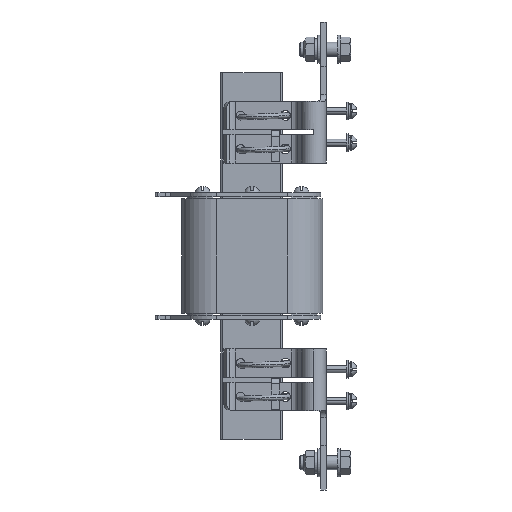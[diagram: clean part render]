
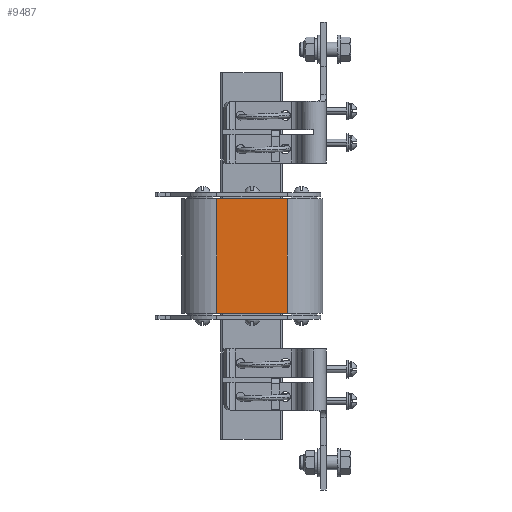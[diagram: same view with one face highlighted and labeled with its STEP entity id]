
A CAD part, left-side view. The second image highlights one B-rep face of the part: STEP entity #9487.
In plain terms, the highlighted planar face has unit normal (-1, 0, 0).
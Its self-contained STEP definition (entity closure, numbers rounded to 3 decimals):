
#9453 = EDGE_CURVE ( 'NONE', #9454, #9484, #19068, .T. ) ;
#9454 = VERTEX_POINT ( 'NONE', #19064 ) ;
#9484 = VERTEX_POINT ( 'NONE', #19137 ) ;
#9487 = ADVANCED_FACE ( 'NONE', ( #19136 ), #19135, .T. ) ;
#9488 = EDGE_LOOP ( 'NONE', ( #9489, #9492, #9495, #9497 ) ) ;
#9489 = ORIENTED_EDGE ( 'NONE', *, *, #9490, .T. ) ;
#9490 = EDGE_CURVE ( 'NONE', #9484, #9491, #19130, .T. ) ;
#9491 = VERTEX_POINT ( 'NONE', #19126 ) ;
#9492 = ORIENTED_EDGE ( 'NONE', *, *, #9493, .T. ) ;
#9493 = EDGE_CURVE ( 'NONE', #9491, #9494, #19125, .T. ) ;
#9494 = VERTEX_POINT ( 'NONE', #19121 ) ;
#9495 = ORIENTED_EDGE ( 'NONE', *, *, #9496, .F. ) ;
#9496 = EDGE_CURVE ( 'NONE', #9454, #9494, #19120, .T. ) ;
#9497 = ORIENTED_EDGE ( 'NONE', *, *, #9453, .T. ) ;
#19064 = CARTESIAN_POINT ( 'NONE',  ( -91.91, 143.421, 32.5 ) ) ;
#19065 = DIRECTION ( 'NONE',  ( 0., 0., -1. ) ) ;
#19066 = VECTOR ( 'NONE', #19065, 1000. ) ;
#19067 = CARTESIAN_POINT ( 'NONE',  ( -91.91, 143.421, -32.5 ) ) ;
#19068 = LINE ( 'NONE', #19067, #19066 ) ;
#19117 = DIRECTION ( 'NONE',  ( 0., -1., 0. ) ) ;
#19118 = VECTOR ( 'NONE', #19117, 1000. ) ;
#19119 = CARTESIAN_POINT ( 'NONE',  ( -91.91, 83.421, 32.5 ) ) ;
#19120 = LINE ( 'NONE', #19119, #19118 ) ;
#19121 = CARTESIAN_POINT ( 'NONE',  ( -91.91, 103.421, 32.5 ) ) ;
#19122 = DIRECTION ( 'NONE',  ( 0., 0., 1. ) ) ;
#19123 = VECTOR ( 'NONE', #19122, 1000. ) ;
#19124 = CARTESIAN_POINT ( 'NONE',  ( -91.91, 103.421, -32.5 ) ) ;
#19125 = LINE ( 'NONE', #19124, #19123 ) ;
#19126 = CARTESIAN_POINT ( 'NONE',  ( -91.91, 103.421, -32.5 ) ) ;
#19127 = DIRECTION ( 'NONE',  ( 0., -1., 0. ) ) ;
#19128 = VECTOR ( 'NONE', #19127, 1000. ) ;
#19129 = CARTESIAN_POINT ( 'NONE',  ( -91.91, 83.421, -32.5 ) ) ;
#19130 = LINE ( 'NONE', #19129, #19128 ) ;
#19131 = DIRECTION ( 'NONE',  ( 0., 0., 1. ) ) ;
#19132 = DIRECTION ( 'NONE',  ( -1., 0., 0. ) ) ;
#19133 = CARTESIAN_POINT ( 'NONE',  ( -91.91, 83.421, -32.5 ) ) ;
#19134 = AXIS2_PLACEMENT_3D ( 'NONE', #19133, #19132, #19131 ) ;
#19135 = PLANE ( 'NONE',  #19134 ) ;
#19136 = FACE_OUTER_BOUND ( 'NONE', #9488, .T. ) ;
#19137 = CARTESIAN_POINT ( 'NONE',  ( -91.91, 143.421, -32.5 ) ) ;
